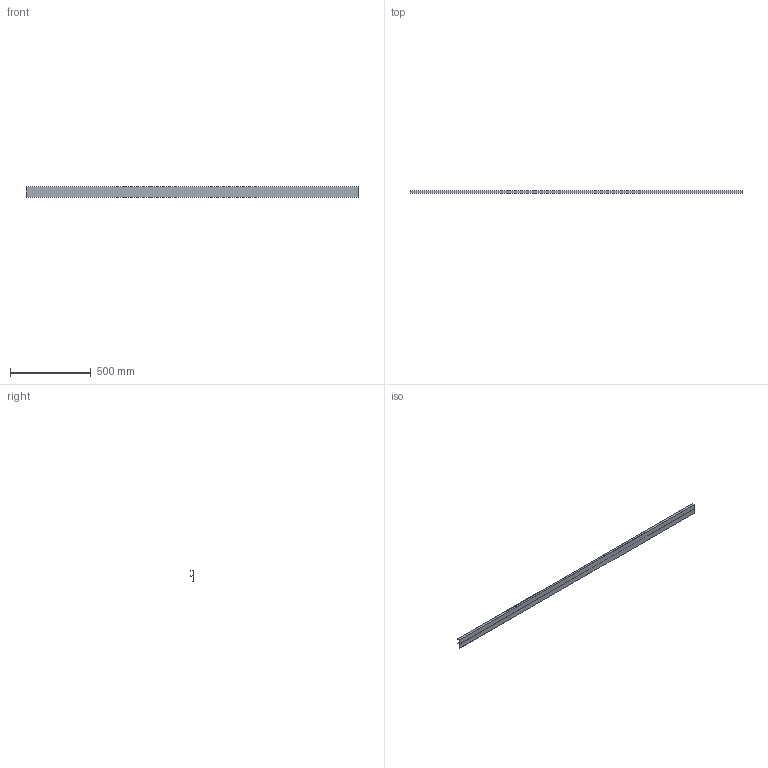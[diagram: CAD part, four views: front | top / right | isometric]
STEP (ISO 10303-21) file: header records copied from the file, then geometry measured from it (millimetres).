
FILE_DESCRIPTION(('STEP AP242'),'1');
FILE_NAME('OPO_65.082.01_volu_3d.stp','2026-01-30T20:52:20',(' '),(' '),'Spatial InterOp 3D',' ',' ');
FILE_SCHEMA(('AP242_MANAGED_MODEL_BASED_3D_ENGINEERING_MIM_LF {1 0 10303 442 1 1 4}'));
Length unit declared in the file: millimetre
Products named in the file (1): 1
Bounding box: 2050 x 15.5 x 65 mm (x, y, z)
Volume: 200900 mm3; surface area: 406096 mm2
Topology: 1 solids, 1 shells, 60 faces, 160 edges, 106 vertices
Faces by surface type: plane 40, cylinder 20
Entity records: 2364 total; most frequent: CARTESIAN_POINT 327, DIRECTION 322, ORIENTED_EDGE 320, EDGE_CURVE 160, LINE 120, VECTOR 120, VERTEX_POINT 106, AXIS2_PLACEMENT_3D 101
